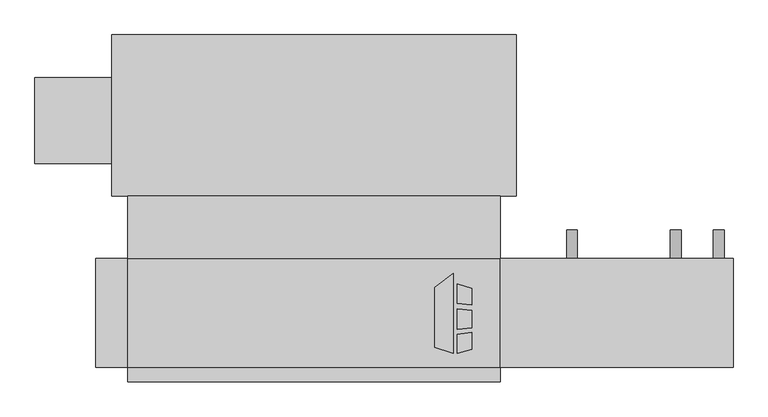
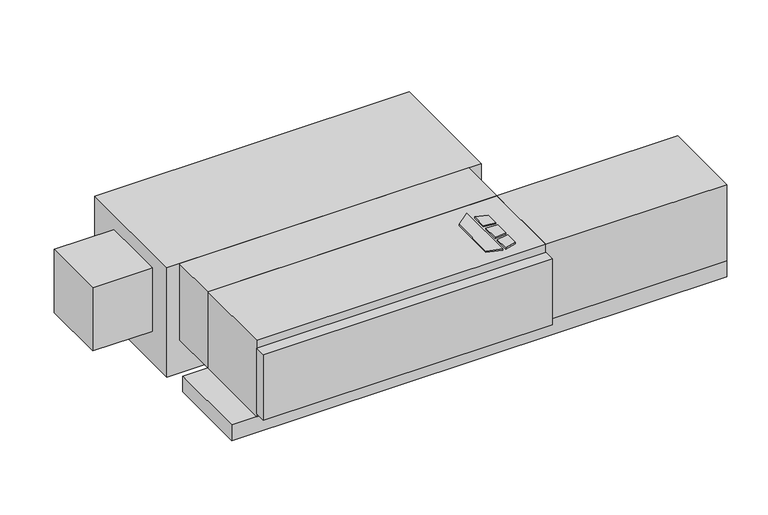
"""IFC4 building model written with IfcOpenShell, lengths in millimetres: proxy geometry, Concealed_Horizontal_Fan_Coil_Unit_With_Plenum_-_CPF_-_IEC_-_4-Pipe_RH : Size 04 - 115v/60Hz/1Ph - 4/1 Coil."""

from ifc_helpers import new_model, si_unit, point, frame, frame_2d, origin, origin_with_axes, place, context, project, spatial, polyline, circle_curve, trimmed, segment, composite_curve, outline, extrude, source, transform, mapped, element, save


def mechanical_equipment_a22b1383(model_context):
    return source(origin(), model_context, "Body", "SweptSolid", [
        extrude(outline(polyline([(366.4019761, -193.0453476), (398.9602728, -167.6080184), (398.9602728, -309.5625), (366.4019761, -299.3429201), (366.4019761, -193.0453476)])), origin_with_axes(), (0.0, 0.0, 1.0), 3.175),
        extrude(outline(polyline([(405.7186058, -220.917352), (405.7186058, -186.4374379), (431.8, -194.6240115), (431.8, -224.1197446), (405.7186058, -220.917352)])), origin_with_axes(), (0.0, 0.0, 1.0), 3.175),
        extrude(outline(polyline([(431.8, -302.5740115), (405.7186058, -309.5625), (405.7186058, -276.3411996), (431.8, -272.7993564), (431.8, -302.5740115)])), origin_with_axes(), (0.0, 0.0, 1.0), 3.175),
        extrude(outline(polyline([(431.8, -233.2013277), (431.8, -264.451483), (405.7186058, -267.192748), (405.7186058, -231.3350378), (431.8, -233.2013277)])), origin_with_axes(), (0.0, 0.0, 1.0), 3.175),
        extrude(outline(polyline([(-177.8, -30.1625), (482.6, -30.1625), (482.6, -141.2875), (-177.8, -141.2875), (-177.8, -30.1625)])), frame((0.0, 0.0, -184.15), z_axis=(0.0, 0.0, 1.0), x_axis=(1.0, 0.0, 0.0)), (0.0, 0.0, 1.0), 184.15),
        extrude(outline(composite_curve([segment(trimmed(circle_curve(frame_2d((-158.75, 793.75)), 9.525), [point((-158.75, 803.275))], [point((-158.75, 784.225))], False, "CARTESIAN"), True, "CONTINUOUS"), segment(trimmed(circle_curve(frame_2d((-158.75, 793.75)), 9.525), [point((-158.75, 784.225))], [point((-158.75, 803.275))], False, "CARTESIAN"), True, "CONTINUOUS")], self_intersect=False)), frame((0.0, -141.2875, 0.0), z_axis=(0.0, 1.0, 0.0), x_axis=(0.0, 0.0, 1.0)), (0.0, 0.0, 1.0), 50.8),
        extrude(outline(composite_curve([segment(trimmed(circle_curve(frame_2d((-69.85, 793.75)), 9.525), [point((-69.85, 803.275))], [point((-69.85, 784.225))], False, "CARTESIAN"), True, "CONTINUOUS"), segment(trimmed(circle_curve(frame_2d((-69.85, 793.75)), 9.525), [point((-69.85, 784.225))], [point((-69.85, 803.275))], False, "CARTESIAN"), True, "CONTINUOUS")], self_intersect=False)), frame((0.0, -141.2875, 0.0), z_axis=(0.0, 1.0, 0.0), x_axis=(0.0, 0.0, 1.0)), (0.0, 0.0, 1.0), 50.8),
        extrude(outline(composite_curve([segment(trimmed(circle_curve(frame_2d((-69.85, 609.6)), 9.525), [point((-69.85, 619.125))], [point((-69.85, 600.075))], False, "CARTESIAN"), True, "CONTINUOUS"), segment(trimmed(circle_curve(frame_2d((-69.85, 609.6)), 9.525), [point((-69.85, 600.075))], [point((-69.85, 619.125))], False, "CARTESIAN"), True, "CONTINUOUS")], self_intersect=False)), frame((0.0, -141.2875, 0.0), z_axis=(0.0, 1.0, 0.0), x_axis=(0.0, 0.0, 1.0)), (0.0, 0.0, 1.0), 50.8),
        extrude(outline(composite_curve([segment(trimmed(circle_curve(frame_2d((-158.75, 609.6)), 9.525), [point((-158.75, 619.125))], [point((-158.75, 600.075))], False, "CARTESIAN"), True, "CONTINUOUS"), segment(trimmed(circle_curve(frame_2d((-158.75, 609.6)), 9.525), [point((-158.75, 600.075))], [point((-158.75, 619.125))], False, "CARTESIAN"), True, "CONTINUOUS")], self_intersect=False)), frame((0.0, -141.2875, 0.0), z_axis=(0.0, 1.0, 0.0), x_axis=(0.0, 0.0, 1.0)), (0.0, 0.0, 1.0), 50.8),
        extrude(outline(polyline([(895.35, -141.2875), (895.35, -334.9625), (482.6, -334.9625), (482.6, -141.2875), (895.35, -141.2875)])), frame((0.0, 0.0, -184.15), z_axis=(0.0, 0.0, 1.0), x_axis=(1.0, 0.0, 0.0)), (0.0, 0.0, 1.0), 184.15),
        extrude(outline(composite_curve([segment(trimmed(circle_curve(frame_2d((-209.55, 869.95)), 9.525), [point((-209.55, 860.425))], [point((-209.55, 879.475))], False, "CARTESIAN"), True, "CONTINUOUS"), segment(trimmed(circle_curve(frame_2d((-209.55, 869.95)), 9.525), [point((-209.55, 879.475))], [point((-209.55, 860.425))], False, "CARTESIAN"), True, "CONTINUOUS")], self_intersect=False)), frame((0.0, -141.2875, 0.0), z_axis=(0.0, 1.0, 0.0), x_axis=(0.0, 0.0, 1.0)), (0.0, 0.0, 1.0), 50.8),
        extrude(outline(polyline([(482.6, -334.9625), (482.6, -360.3625), (-177.8, -360.3625), (-177.8, -334.9625), (482.6, -334.9625)])), frame((0.0, 0.0, -177.8), z_axis=(0.0, 0.0, 1.0), x_axis=(1.0, 0.0, 0.0)), (0.0, 0.0, 1.0), 158.75),
        extrude(outline(polyline([(482.6, -334.9625), (-177.8, -334.9625), (-177.8, -141.2875), (482.6, -141.2875), (482.6, -334.9625)])), frame((0.0, 0.0, -184.15), z_axis=(0.0, 0.0, 1.0), x_axis=(1.0, 0.0, 0.0)), (0.0, 0.0, 1.0), 184.15),
        extrude(outline(polyline([(895.35, -141.2875), (895.35, -334.9625), (-234.95, -334.9625), (-234.95, -141.2875), (895.35, -141.2875)])), frame((0.0, 0.0, -222.25), z_axis=(0.0, 0.0, 1.0), x_axis=(1.0, 0.0, 0.0)), (0.0, 0.0, 1.0), 38.1),
        extrude(outline(polyline([(-342.9, 26.9875), (-342.9, 179.3875), (-206.375, 179.3875), (-206.375, 26.9875), (-342.9, 26.9875)])), frame((0.0, 0.0, -187.325), z_axis=(0.0, 0.0, 1.0), x_axis=(1.0, 0.0, 0.0)), (0.0, 0.0, 1.0), 152.4),
        extrude(outline(polyline([(-206.375, 255.5875), (511.175, 255.5875), (511.175, -30.1625), (-206.375, -30.1625), (-206.375, 255.5875)])), frame((0.0, 0.0, -263.525), z_axis=(0.0, 0.0, 1.0), x_axis=(1.0, 0.0, 0.0)), (0.0, 0.0, 1.0), 263.525),
    ])


if __name__ == "__main__":
    model = new_model("IFC4")
    model_context = context("Model", 3, world=origin())
    ifc_project = project(units=[si_unit("LENGTHUNIT", "METRE", prefix="MILLI")], contexts=[model_context])
    site = spatial("IfcSite", under=ifc_project)
    building = spatial("IfcBuilding", under=site)
    placement = place(None, origin())
    mechanical_equipment_shape = mechanical_equipment_a22b1383(model_context)
    element("IfcBuildingElementProxy", 1, Name="Concealed_Horizontal_Fan_Coil_Unit_With_Plenum_-_CPF_-_IEC_-_4-Pipe_RH : Size 04 - 115v/60Hz/1Ph - 4/1 Coil", ObjectType="Concealed_Horizontal_Fan_Coil_Unit_With_Plenum_-_CPF_-_IEC_-_4-Pipe_RH : Size 04 - 115v/60Hz/1Ph - 4/1 Coil", at=placement, inside=building, context=model_context, shape_type="MappedRepresentation", body=[
        mapped(mechanical_equipment_shape, transform((0.0, 0.0, 0.0), x_axis=(1.0, 0.0, 0.0), y_axis=(0.0, 1.0, 0.0), z_axis=(0.0, 0.0, 1.0))),
    ])
    save(model, "model.ifc")
